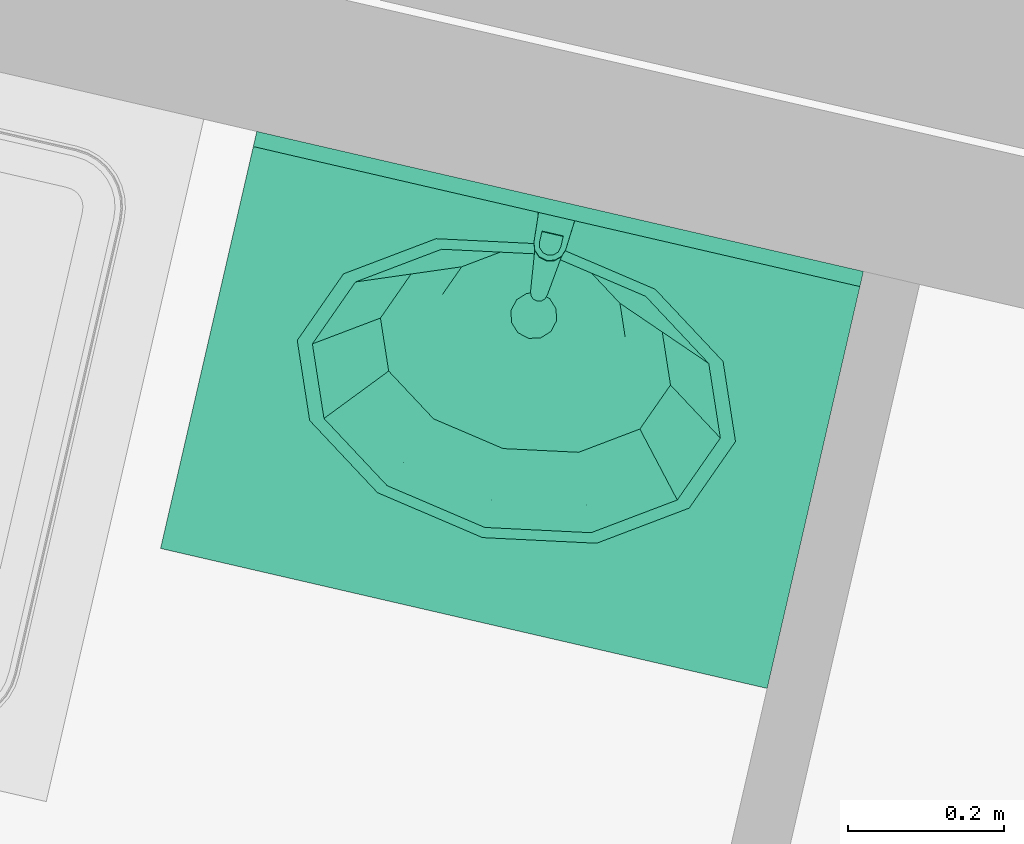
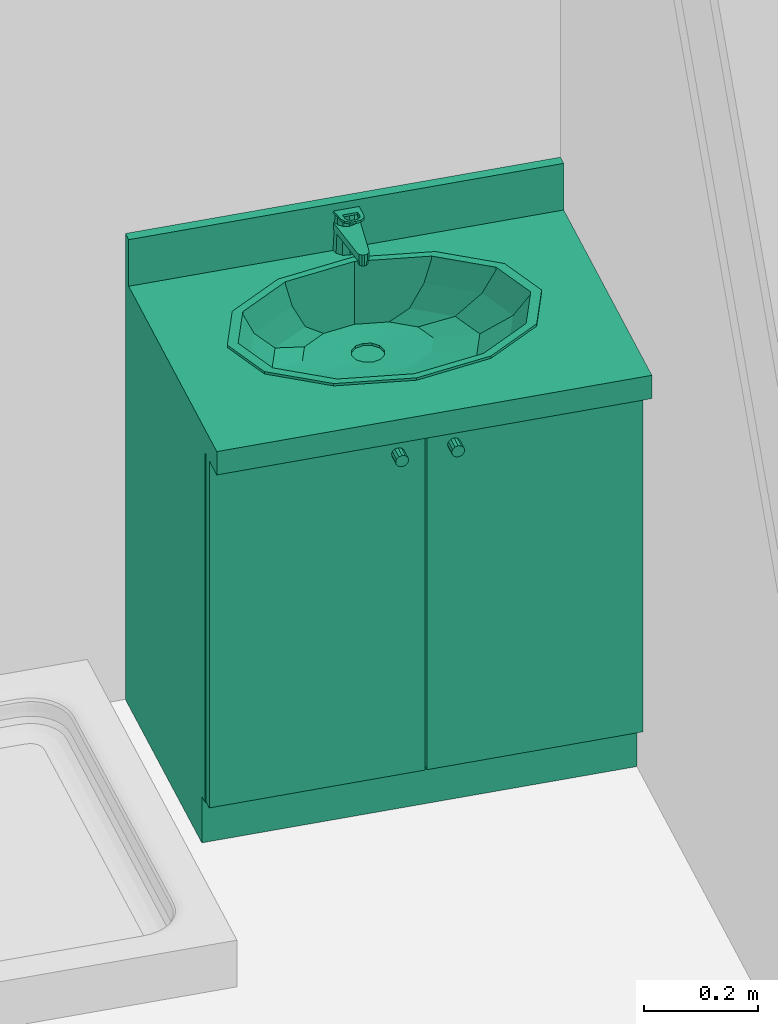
# One storey, part 102 of 119: 1 flow terminal.
"""IFC2X3 building model written with IfcOpenShell, lengths in metres."""

from ifc_helpers import new_model, entity, si_unit, converted_unit, derived_unit, money_unit, direction, frame, origin_with_axes, place, context, subcontext, project, spatial, open_shell, faceted_brep, surface_model, source, transform, mapped, type_object, element, save


model = new_model("IFC2X3")

# Units and contexts
model_context = context("Model", 3, precision=1e-05, world=origin_with_axes(), true_north=direction((0.0, 1.0)))
body_context = subcontext(model_context, "Body", "Model", "MODEL_VIEW")
ifc_project = project(units=[si_unit("LENGTHUNIT", "METRE"), si_unit("AREAUNIT", "SQUARE_METRE"), si_unit("VOLUMEUNIT", "CUBIC_METRE"), converted_unit("PLANEANGLEUNIT", "DEGREE", entity("IfcPlaneAngleMeasure", 0.0174532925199), si_unit("PLANEANGLEUNIT", "RADIAN"), dimensions=[0, 0, 0, 0, 0, 0, 0]), si_unit("SOLIDANGLEUNIT", "STERADIAN"), money_unit("EUR"), converted_unit("TIMEUNIT", "Year", entity("IfcTimeMeasure", 31556926.0), si_unit("TIMEUNIT", "SECOND"), dimensions=[0, 0, 1, 0, 0, 0, 0]), si_unit("MASSUNIT", "GRAM", prefix="KILO"), si_unit("THERMODYNAMICTEMPERATUREUNIT", "DEGREE_CELSIUS"), si_unit("LUMINOUSINTENSITYUNIT", "LUMEN"), si_unit("ENERGYUNIT", "JOULE", prefix="MEGA"), derived_unit("THERMALCONDUCTANCEUNIT", [(si_unit("POWERUNIT", "WATT"), 1), (si_unit("LENGTHUNIT", "METRE"), -1), (si_unit("THERMODYNAMICTEMPERATUREUNIT", "KELVIN"), -1)]), derived_unit("SPECIFICHEATCAPACITYUNIT", [(si_unit("ENERGYUNIT", "JOULE"), 1), (si_unit("MASSUNIT", "GRAM", prefix="KILO"), -1), (si_unit("THERMODYNAMICTEMPERATUREUNIT", "KELVIN"), -1)]), derived_unit("MASSDENSITYUNIT", [(si_unit("MASSUNIT", "GRAM", prefix="KILO"), 1), (si_unit("VOLUMEUNIT", "CUBIC_METRE"), -1)])], contexts=[model_context])

# Site, building, storey
site_placement = place(None, origin_with_axes())
site = spatial("IfcSite", under=ifc_project, at=site_placement, Name="Site", CompositionType="ELEMENT")
building_placement = place(site_placement, origin_with_axes())
building = spatial("IfcBuilding", under=site, at=building_placement, Name="Bâtiment", CompositionType="ELEMENT")
storey_placement = place(building_placement, origin_with_axes())
storey = spatial("IfcBuildingStorey", under=building, at=storey_placement, Name="Rez-de-chaussée", CompositionType="ELEMENT", Elevation=0.0)

# Flow terminal
sanitary_terminal_type = type_object("IfcSanitaryTerminalType", Name="Lavabo sur meuble 23", PredefinedType="NOTDEFINED")
shared_shape = source(origin_with_axes(), body_context, "Body", "SurfaceModel", [
    faceted_brep([(0.0, 0.09, 0.0), (0.0, 0.09, 0.1), (-0.8, 0.09, 0.1), (-0.8, 0.09, 0.0), (0.0, 0.55, 0.0), (0.0, 0.55, 0.1), (-0.8, 0.55, 0.1), (-0.8, 0.55, 0.0)], [[[0, 1, 2, 3]], [[4, 5, 1, 0]], [[1, 5, 6, 2]], [[3, 2, 6, 7]], [[0, 3, 7, 4]], [[7, 6, 5, 4]]]),
    faceted_brep([(0.0, 0.07, 0.1), (0.0, 0.07, 0.12), (-0.02, 0.07, 0.12), (-0.02, 0.07, 0.1), (0.0, 0.55, 0.1), (0.0, 0.55, 0.12), (-0.02, 0.55, 0.12), (-0.78, 0.55, 0.12), (-0.8, 0.55, 0.12), (-0.8, 0.07, 0.12), (-0.78, 0.07, 0.12), (-0.78, 0.07, 0.1), (-0.8, 0.07, 0.1), (-0.8, 0.55, 0.1), (-0.78, 0.55, 0.1), (-0.02, 0.55, 0.1)], [[[0, 1, 2, 3]], [[4, 5, 1, 0]], [[1, 5, 6, 7, 8, 9, 10, 2]], [[3, 2, 10, 11]], [[0, 3, 11, 12, 13, 14, 15, 4]], [[15, 6, 5, 4]], [[14, 7, 6, 15]], [[13, 8, 7, 14]], [[12, 9, 8, 13]], [[11, 10, 9, 12]]]),
    faceted_brep([(0.0, 0.07, 0.12), (0.0, 0.07, 0.85), (-0.02, 0.07, 0.85), (-0.02, 0.07, 0.12), (0.0, 0.55, 0.12), (0.0, 0.55, 0.85), (-0.8, 0.55, 0.85), (-0.8, 0.07, 0.85), (-0.78, 0.07, 0.85), (-0.78, 0.53, 0.85), (-0.02, 0.53, 0.85), (-0.02, 0.53, 0.12), (-0.78, 0.53, 0.12), (-0.78, 0.07, 0.12), (-0.8, 0.07, 0.12), (-0.8, 0.55, 0.12)], [[[0, 1, 2, 3]], [[4, 5, 1, 0]], [[1, 5, 6, 7, 8, 9, 10, 2]], [[3, 2, 10, 11]], [[0, 3, 11, 12, 13, 14, 15, 4]], [[15, 6, 5, 4]], [[14, 7, 6, 15]], [[13, 8, 7, 14]], [[12, 9, 8, 13]], [[11, 10, 9, 12]]]),
    faceted_brep([(-0.78, 0.07, 0.323333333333), (-0.78, 0.07, 0.343333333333), (-0.78, 0.53, 0.343333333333), (-0.78, 0.53, 0.323333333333), (-0.02, 0.07, 0.323333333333), (-0.02, 0.07, 0.343333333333), (-0.02, 0.53, 0.343333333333), (-0.02, 0.53, 0.323333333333)], [[[0, 1, 2, 3]], [[4, 5, 1, 0]], [[1, 5, 6, 2]], [[3, 2, 6, 7]], [[0, 3, 7, 4]], [[7, 6, 5, 4]]]),
    faceted_brep([(-0.78, 0.07, 0.566666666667), (-0.78, 0.07, 0.586666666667), (-0.78, 0.53, 0.586666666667), (-0.78, 0.53, 0.566666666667), (-0.02, 0.07, 0.566666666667), (-0.02, 0.07, 0.586666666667), (-0.02, 0.53, 0.586666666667), (-0.02, 0.53, 0.566666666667)], [[[0, 1, 2, 3]], [[4, 5, 1, 0]], [[1, 5, 6, 2]], [[3, 2, 6, 7]], [[0, 3, 7, 4]], [[7, 6, 5, 4]]]),
    faceted_brep([(0.0, 0.55, 0.85), (0.0, 0.0, 0.85), (-0.8, 0.0, 0.85), (-0.8, 0.55, 0.85), (-0.535, 0.144115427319, 0.85), (-0.4, 0.12, 0.85), (-0.265, 0.144115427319, 0.85), (-0.166173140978, 0.21, 0.85), (-0.13, 0.3, 0.85), (-0.166173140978, 0.39, 0.85), (-0.265, 0.455884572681, 0.85), (-0.4, 0.48, 0.85), (-0.535, 0.455884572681, 0.85), (-0.633826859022, 0.39, 0.85), (-0.67, 0.3, 0.85), (-0.633826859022, 0.21, 0.85), (0.0, 0.55, 0.9), (0.0, 0.0, 0.9), (-0.8, 0.0, 0.9), (-0.8, 0.55, 0.9), (-0.4, 0.12, 0.9), (-0.535, 0.144115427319, 0.9), (-0.265, 0.144115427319, 0.9), (-0.166173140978, 0.21, 0.9), (-0.13, 0.3, 0.9), (-0.166173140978, 0.39, 0.9), (-0.265, 0.455884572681, 0.9), (-0.4, 0.48, 0.9), (-0.535, 0.455884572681, 0.9), (-0.633826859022, 0.39, 0.9), (-0.67, 0.3, 0.9), (-0.633826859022, 0.21, 0.9)], [[[0, 1, 2, 3], [4, 5, 6, 7, 8, 9, 10, 11, 12, 13, 14, 15]], [[1, 0, 16, 17]], [[2, 1, 17, 18]], [[3, 2, 18, 19]], [[0, 3, 19, 16]], [[20, 5, 4, 21]], [[22, 6, 5, 20]], [[23, 7, 6, 22]], [[24, 8, 7, 23]], [[25, 9, 8, 24]], [[26, 10, 9, 25]], [[27, 11, 10, 26]], [[28, 12, 11, 27]], [[29, 13, 12, 28]], [[30, 14, 13, 29]], [[31, 15, 14, 30]], [[21, 4, 15, 31]], [[18, 17, 16, 19], [28, 27, 26, 25, 24, 23, 22, 20, 21, 31, 30, 29]]]),
    faceted_brep([(0.0, 0.53, 0.9), (0.0, 0.53, 1.0), (-0.8, 0.53, 1.0), (-0.8, 0.53, 0.9), (0.0, 0.55, 0.9), (0.0, 0.55, 1.0), (-0.8, 0.55, 1.0), (-0.8, 0.55, 0.9)], [[[0, 1, 2, 3]], [[4, 5, 1, 0]], [[1, 5, 6, 2]], [[3, 2, 6, 7]], [[0, 3, 7, 4]], [[7, 6, 5, 4]]]),
    faceted_brep([(-0.689, 0.3, 0.905), (-0.650281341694, 0.396691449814, 0.905), (-0.650281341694, 0.396691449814, 0.9), (-0.689, 0.3, 0.9), (-0.650281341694, 0.203308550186, 0.905), (-0.5445, 0.132525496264, 0.905), (-0.4, 0.106617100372, 0.905), (-0.2555, 0.132525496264, 0.905), (-0.149718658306, 0.203308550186, 0.905), (-0.111, 0.3, 0.905), (-0.149718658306, 0.396691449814, 0.905), (-0.2555, 0.467474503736, 0.905), (-0.4, 0.493382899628, 0.905), (-0.5445, 0.467474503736, 0.905), (-0.669, 0.3, 0.905), (-0.632960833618, 0.39, 0.905), (-0.5345, 0.455884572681, 0.905), (-0.4, 0.48, 0.905), (-0.2655, 0.455884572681, 0.905), (-0.167039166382, 0.39, 0.905), (-0.131, 0.3, 0.905), (-0.167039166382, 0.21, 0.905), (-0.2655, 0.144115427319, 0.905), (-0.4, 0.12, 0.905), (-0.5345, 0.144115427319, 0.905), (-0.632960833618, 0.21, 0.905), (-0.5445, 0.467474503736, 0.9), (-0.4, 0.493382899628, 0.9), (-0.2555, 0.467474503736, 0.9), (-0.149718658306, 0.396691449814, 0.9), (-0.111, 0.3, 0.9), (-0.149718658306, 0.203308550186, 0.9), (-0.2555, 0.132525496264, 0.9), (-0.4, 0.106617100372, 0.9), (-0.5445, 0.132525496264, 0.9), (-0.650281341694, 0.203308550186, 0.9), (-0.669, 0.3, 0.9), (-0.632960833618, 0.21, 0.9), (-0.5345, 0.144115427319, 0.9), (-0.4, 0.12, 0.9), (-0.2655, 0.144115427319, 0.9), (-0.167039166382, 0.21, 0.9), (-0.131, 0.3, 0.9), (-0.167039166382, 0.39, 0.9), (-0.2655, 0.455884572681, 0.9), (-0.4, 0.48, 0.9), (-0.5345, 0.455884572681, 0.9), (-0.632960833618, 0.39, 0.9)], [[[0, 1, 2, 3]], [[0, 4, 5, 6, 7, 8, 9, 10, 11, 12, 13, 1], [14, 15, 16, 17, 18, 19, 20, 21, 22, 23, 24, 25]], [[1, 13, 26, 2]], [[3, 2, 26, 27, 28, 29, 30, 31, 32, 33, 34, 35], [36, 37, 38, 39, 40, 41, 42, 43, 44, 45, 46, 47]], [[4, 0, 3, 35]], [[5, 4, 35, 34]], [[6, 5, 34, 33]], [[7, 6, 33, 32]], [[8, 7, 32, 31]], [[9, 8, 31, 30]], [[10, 9, 30, 29]], [[11, 10, 29, 28]], [[12, 11, 28, 27]], [[13, 12, 27, 26]], [[15, 14, 36, 47]], [[16, 15, 47, 46]], [[17, 16, 46, 45]], [[18, 17, 45, 44]], [[19, 18, 44, 43]], [[20, 19, 43, 42]], [[21, 20, 42, 41]], [[22, 21, 41, 40]], [[23, 22, 40, 39]], [[24, 23, 39, 38]], [[25, 24, 38, 37]], [[14, 25, 37, 36]]]),
    surface_model("IfcShellBasedSurfaceModel", [(-0.4, 0.48, 0.9), (-0.5345, 0.455884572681, 0.9), (-0.52105, 0.458296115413, 0.848), (-0.4, 0.48, 0.848), (-0.632960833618, 0.39, 0.9), (-0.609664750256, 0.399, 0.848), (-0.2655, 0.455884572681, 0.9), (-0.27895, 0.458296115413, 0.848), (-0.669, 0.3, 0.9), (-0.6421, 0.318, 0.848), (-0.167039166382, 0.39, 0.9), (-0.190335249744, 0.399, 0.848), (-0.632960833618, 0.21, 0.9), (-0.609664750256, 0.237, 0.848), (-0.131, 0.3, 0.9), (-0.1579, 0.318, 0.848), (-0.5345, 0.144115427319, 0.9), (-0.52105, 0.177703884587, 0.848), (-0.167039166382, 0.21, 0.9), (-0.190335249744, 0.237, 0.848), (-0.4, 0.12, 0.9), (-0.4, 0.156, 0.848), (-0.2655, 0.144115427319, 0.9), (-0.27895, 0.177703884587, 0.848)], [open_shell([[[0, 1, 2, 3]], [[1, 4, 5, 2]], [[6, 0, 3, 7]], [[4, 8, 9, 5]], [[10, 6, 7, 11]], [[8, 12, 13, 9]], [[14, 10, 11, 15]], [[12, 16, 17, 13]], [[18, 14, 15, 19]], [[16, 20, 21, 17]], [[22, 18, 19, 23]], [[20, 22, 23, 21]]])]),
    surface_model("IfcShellBasedSurfaceModel", [(-0.4, 0.48, 0.848), (-0.52105, 0.458296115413, 0.848), (-0.4956295, 0.462853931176, 0.796), (-0.4, 0.48, 0.796), (-0.609664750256, 0.399, 0.848), (-0.565635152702, 0.41601, 0.796), (-0.27895, 0.458296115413, 0.848), (-0.3043705, 0.462853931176, 0.796), (-0.6421, 0.318, 0.848), (-0.591259, 0.35202, 0.796), (-0.190335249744, 0.399, 0.848), (-0.234364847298, 0.41601, 0.796), (-0.609664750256, 0.237, 0.848), (-0.565635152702, 0.28803, 0.796), (-0.1579, 0.318, 0.848), (-0.208741, 0.35202, 0.796), (-0.52105, 0.177703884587, 0.848), (-0.4956295, 0.241186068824, 0.796), (-0.190335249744, 0.237, 0.848), (-0.234364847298, 0.28803, 0.796), (-0.4, 0.156, 0.848), (-0.4, 0.22404, 0.796), (-0.27895, 0.177703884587, 0.848), (-0.3043705, 0.241186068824, 0.796)], [open_shell([[[0, 1, 2, 3]], [[1, 4, 5, 2]], [[6, 0, 3, 7]], [[4, 8, 9, 5]], [[10, 6, 7, 11]], [[8, 12, 13, 9]], [[14, 10, 11, 15]], [[12, 16, 17, 13]], [[18, 14, 15, 19]], [[16, 20, 21, 17]], [[22, 18, 19, 23]], [[20, 22, 23, 21]]])]),
    surface_model("IfcShellBasedSurfaceModel", [(-0.4, 0.48, 0.796), (-0.4956295, 0.462853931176, 0.796), (-0.460246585, 0.469197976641, 0.77), (-0.4, 0.48, 0.77), (-0.565635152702, 0.41601, 0.796), (-0.504350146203, 0.4396863, 0.77), (-0.3043705, 0.462853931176, 0.796), (-0.339753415, 0.469197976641, 0.77), (-0.591259, 0.35202, 0.796), (-0.52049317, 0.3993726, 0.77), (-0.234364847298, 0.41601, 0.796), (-0.295649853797, 0.4396863, 0.77), (-0.565635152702, 0.28803, 0.796), (-0.504350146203, 0.3590589, 0.77), (-0.208741, 0.35202, 0.796), (-0.27950683, 0.3993726, 0.77), (-0.4956295, 0.241186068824, 0.796), (-0.460246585, 0.329547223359, 0.77), (-0.234364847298, 0.28803, 0.796), (-0.295649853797, 0.3590589, 0.77), (-0.4, 0.22404, 0.796), (-0.4, 0.3187452, 0.77), (-0.3043705, 0.241186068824, 0.796), (-0.339753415, 0.329547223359, 0.77)], [open_shell([[[0, 1, 2, 3]], [[1, 4, 5, 2]], [[6, 0, 3, 7]], [[4, 8, 9, 5]], [[10, 6, 7, 11]], [[8, 12, 13, 9]], [[14, 10, 11, 15]], [[12, 16, 17, 13]], [[18, 14, 15, 19]], [[16, 20, 21, 17]], [[22, 18, 19, 23]], [[20, 22, 23, 21]]])]),
    surface_model("IfcShellBasedSurfaceModel", [(-0.4, 0.48, 0.77), (-0.460246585, 0.469197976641, 0.77), (-0.415, 0.425353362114, 0.763), (-0.425980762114, 0.4143726, 0.763), (-0.4, 0.4293726, 0.763), (-0.504350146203, 0.4396863, 0.77), (-0.339753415, 0.469197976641, 0.77), (-0.43, 0.3993726, 0.763), (-0.385, 0.425353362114, 0.763), (-0.52049317, 0.3993726, 0.77), (-0.295649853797, 0.4396863, 0.77), (-0.425980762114, 0.3843726, 0.763), (-0.374019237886, 0.4143726, 0.763), (-0.504350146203, 0.3590589, 0.77), (-0.27950683, 0.3993726, 0.77), (-0.415, 0.373391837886, 0.763), (-0.37, 0.3993726, 0.763), (-0.460246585, 0.329547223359, 0.77), (-0.295649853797, 0.3590589, 0.77), (-0.4, 0.3693726, 0.763), (-0.374019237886, 0.3843726, 0.763), (-0.4, 0.3187452, 0.77), (-0.339753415, 0.329547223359, 0.77), (-0.385, 0.373391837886, 0.763)], [open_shell([[[0, 1, 2]], [[1, 3, 2]], [[0, 2, 4]], [[1, 5, 3]], [[6, 0, 4]], [[5, 7, 3]], [[6, 4, 8]], [[5, 9, 7]], [[10, 6, 8]], [[9, 11, 7]], [[10, 8, 12]], [[9, 13, 11]], [[14, 10, 12]], [[13, 15, 11]], [[14, 12, 16]], [[13, 17, 15]], [[18, 14, 16]], [[17, 19, 15]], [[18, 16, 20]], [[17, 21, 19]], [[22, 18, 20]], [[21, 23, 19]], [[22, 20, 23]], [[21, 22, 23]]])]),
    surface_model("IfcShellBasedSurfaceModel", [(-0.43, 0.3993726, 0.763), (-0.425980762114, 0.4143726, 0.763), (-0.425980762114, 0.4143726, 0.758), (-0.43, 0.3993726, 0.758), (-0.415, 0.425353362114, 0.763), (-0.415, 0.425353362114, 0.758), (-0.4, 0.4293726, 0.758), (-0.385, 0.425353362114, 0.758), (-0.374019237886, 0.4143726, 0.758), (-0.37, 0.3993726, 0.758), (-0.374019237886, 0.3843726, 0.758), (-0.385, 0.373391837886, 0.758), (-0.4, 0.3693726, 0.758), (-0.415, 0.373391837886, 0.758), (-0.425980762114, 0.3843726, 0.758), (-0.425980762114, 0.3843726, 0.763), (-0.4, 0.4293726, 0.763), (-0.385, 0.425353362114, 0.763), (-0.374019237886, 0.4143726, 0.763), (-0.37, 0.3993726, 0.763), (-0.374019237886, 0.3843726, 0.763), (-0.385, 0.373391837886, 0.763), (-0.4, 0.3693726, 0.763), (-0.415, 0.373391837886, 0.763)], [open_shell([[[0, 1, 2, 3]], [[1, 4, 5, 2]], [[3, 2, 5, 6, 7, 8, 9, 10, 11, 12, 13, 14]], [[15, 0, 3, 14]], [[4, 16, 6, 5]], [[16, 17, 7, 6]], [[17, 18, 8, 7]], [[18, 19, 9, 8]], [[19, 20, 10, 9]], [[20, 21, 11, 10]], [[21, 22, 12, 11]], [[22, 23, 13, 12]], [[23, 15, 14, 13]]])]),
    faceted_brep([(-0.4125, 0.554150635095, 0.9), (-0.410587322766, 0.550837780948, 0.976507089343), (-0.4, 0.553701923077, 0.975961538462), (-0.4, 0.5575, 0.9), (-0.421650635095, 0.545, 0.9), (-0.418273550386, 0.543050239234, 0.977990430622), (-0.421, 0.5325, 0.98), (-0.418100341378, 0.522049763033, 0.981990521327), (-0.410414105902, 0.514462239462, 0.983435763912), (-0.4, 0.511698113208, 0.983962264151), (-0.389585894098, 0.514462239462, 0.983435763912), (-0.381899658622, 0.522049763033, 0.981990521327), (-0.379, 0.5325, 0.98), (-0.381726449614, 0.543050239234, 0.977990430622), (-0.389412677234, 0.550837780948, 0.976507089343), (-0.3875, 0.554150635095, 0.9), (-0.378349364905, 0.545, 0.9), (-0.375, 0.5325, 0.9), (-0.378349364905, 0.52, 0.9), (-0.3875, 0.510849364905, 0.9), (-0.4, 0.5075, 0.9), (-0.4125, 0.510849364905, 0.9), (-0.421650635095, 0.52, 0.9), (-0.425, 0.5325, 0.9)], [[[0, 1, 2, 3]], [[4, 5, 1, 0]], [[1, 5, 6, 7, 8, 9, 10, 11, 12, 13, 14, 2]], [[3, 2, 14, 15]], [[0, 3, 15, 16, 17, 18, 19, 20, 21, 22, 23, 4]], [[23, 6, 5, 4]], [[22, 7, 6, 23]], [[21, 8, 7, 22]], [[20, 9, 8, 21]], [[19, 10, 9, 20]], [[18, 11, 10, 19]], [[17, 12, 11, 18]], [[16, 13, 12, 17]], [[15, 14, 13, 16]]]),
    faceted_brep([(-0.409, 0.4295, 0.935), (-0.409, 0.4295, 0.945), (-0.407794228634, 0.434, 0.945), (-0.407794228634, 0.434, 0.935), (-0.407794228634, 0.425, 0.935), (-0.407794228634, 0.425, 0.945), (-0.4045, 0.421705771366, 0.945), (-0.4, 0.4205, 0.945), (-0.3955, 0.421705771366, 0.945), (-0.392205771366, 0.425, 0.945), (-0.391, 0.4295, 0.945), (-0.392205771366, 0.434, 0.945), (-0.3955, 0.437294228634, 0.945), (-0.4, 0.4385, 0.945), (-0.4045, 0.437294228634, 0.945), (-0.4045, 0.437294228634, 0.935), (-0.4, 0.4385, 0.935), (-0.3955, 0.437294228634, 0.935), (-0.392205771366, 0.434, 0.935), (-0.391, 0.4295, 0.935), (-0.392205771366, 0.425, 0.935), (-0.3955, 0.421705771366, 0.935), (-0.4, 0.4205, 0.935), (-0.4045, 0.421705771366, 0.935)], [[[0, 1, 2, 3]], [[4, 5, 1, 0]], [[1, 5, 6, 7, 8, 9, 10, 11, 12, 13, 14, 2]], [[3, 2, 14, 15]], [[0, 3, 15, 16, 17, 18, 19, 20, 21, 22, 23, 4]], [[23, 6, 5, 4]], [[22, 7, 6, 23]], [[21, 8, 7, 22]], [[20, 9, 8, 21]], [[19, 10, 9, 20]], [[18, 11, 10, 19]], [[17, 12, 11, 18]], [[16, 13, 12, 17]], [[15, 14, 13, 16]]]),
    faceted_brep([(-0.387128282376, 0.552756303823, 0.96), (-0.40000000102, 0.556499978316, 0.96), (-0.412871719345, 0.552756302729, 0.96), (-0.421727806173, 0.542693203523, 0.96), (-0.423805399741, 0.529450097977, 0.96), (-0.410912, 0.4281117, 0.96), (-0.409028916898, 0.423216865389, 0.96), (-0.405093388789, 0.419750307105, 0.96), (-0.400000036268, 0.41850003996, 0.96), (-0.394906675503, 0.419750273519, 0.96), (-0.390971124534, 0.423216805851, 0.96), (-0.389088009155, 0.428111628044, 0.96), (-0.3761946, 0.5294501, 0.96), (-0.378272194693, 0.54269320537, 0.96), (-0.411, 0.551552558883, 0.96), (-0.4, 0.5545, 0.96), (-0.389, 0.551552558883, 0.96), (-0.380947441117, 0.5435, 0.96), (-0.378, 0.5325, 0.96), (-0.380947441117, 0.5215, 0.96), (-0.389, 0.513447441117, 0.96), (-0.4, 0.5105, 0.96), (-0.411, 0.513447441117, 0.96), (-0.419052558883, 0.5215, 0.96), (-0.422, 0.5325, 0.96), (-0.419052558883, 0.5435, 0.96), (-0.387128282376, 0.552756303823, 0.945), (-0.40000000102, 0.556499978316, 0.945), (-0.412871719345, 0.552756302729, 0.945), (-0.421727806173, 0.542693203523, 0.945), (-0.423805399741, 0.529450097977, 0.945), (-0.410912, 0.4281117, 0.945), (-0.409028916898, 0.423216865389, 0.945), (-0.405093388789, 0.419750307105, 0.945), (-0.400000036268, 0.41850003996, 0.945), (-0.394906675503, 0.419750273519, 0.945), (-0.390971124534, 0.423216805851, 0.945), (-0.389088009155, 0.428111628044, 0.945), (-0.3761946, 0.5294501, 0.945), (-0.378272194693, 0.54269320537, 0.945), (-0.4, 0.55525, 0.945), (-0.411375, 0.552202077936, 0.945), (-0.388625, 0.552202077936, 0.945), (-0.380297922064, 0.543875, 0.945), (-0.37725, 0.5325, 0.945), (-0.380297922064, 0.521125, 0.945), (-0.388625, 0.512797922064, 0.945), (-0.4, 0.50975, 0.945), (-0.411375, 0.512797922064, 0.945), (-0.419702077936, 0.521125, 0.945), (-0.42275, 0.5325, 0.945), (-0.419702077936, 0.543875, 0.945)], [[[0, 1, 2, 3, 4, 5, 6, 7, 8, 9, 10, 11, 12, 13], [14, 15, 16, 17, 18, 19, 20, 21, 22, 23, 24, 25]], [[26, 27, 1, 0]], [[27, 28, 2, 1]], [[28, 29, 3, 2]], [[29, 30, 4, 3]], [[30, 31, 5, 4]], [[31, 32, 6, 5]], [[32, 33, 7, 6]], [[33, 34, 8, 7]], [[34, 35, 9, 8]], [[35, 36, 10, 9]], [[36, 37, 11, 10]], [[37, 38, 12, 11]], [[38, 39, 13, 12]], [[39, 26, 0, 13]], [[40, 15, 14, 41]], [[42, 16, 15, 40]], [[16, 42, 43, 17]], [[17, 43, 44, 18]], [[18, 44, 45, 19]], [[19, 45, 46, 20]], [[20, 46, 47, 21]], [[48, 22, 21, 47]], [[49, 23, 22, 48]], [[50, 24, 23, 49]], [[51, 25, 24, 50]], [[41, 14, 25, 51]], [[34, 33, 32, 31, 30, 29, 28, 27, 26, 39, 38, 37, 36, 35], [48, 47, 46, 45, 44, 43, 42, 40, 41, 51, 50, 49]]]),
    faceted_brep([(-0.423893, 0.53080743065, 0.980322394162), (-0.423893, 0.531555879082, 0.984251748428), (-0.421296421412, 0.544023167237, 0.981877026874), (-0.421296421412, 0.543274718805, 0.977947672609), (-0.420945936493, 0.490663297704, 0.987968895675), (-0.420945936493, 0.491411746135, 0.991898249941), (-0.417663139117, 0.48173408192, 0.993741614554), (-0.410061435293, 0.47478470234, 0.995065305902), (-0.399999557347, 0.472262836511, 0.995545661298), (-0.389937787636, 0.474785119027, 0.995065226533), (-0.382336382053, 0.481734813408, 0.993741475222), (-0.379054, 0.491412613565, 0.991898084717), (-0.376106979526, 0.531556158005, 0.984251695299), (-0.378703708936, 0.544023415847, 0.98187697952), (-0.38752831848, 0.553339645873, 0.980102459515), (-0.400000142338, 0.556780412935, 0.979447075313), (-0.41247192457, 0.553339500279, 0.980102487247), (-0.414, 0.507707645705, 0.988794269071), (-0.386, 0.507707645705, 0.988794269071), (-0.386, 0.492892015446, 0.991616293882), (-0.387875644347, 0.486015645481, 0.992926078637), (-0.393, 0.480981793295, 0.993884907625), (-0.4, 0.479139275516, 0.994235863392), (-0.407, 0.480981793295, 0.993884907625), (-0.412124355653, 0.486015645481, 0.992926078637), (-0.414, 0.492892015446, 0.991616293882), (-0.41247192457, 0.552591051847, 0.976173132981), (-0.400000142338, 0.556031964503, 0.975517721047), (-0.38752831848, 0.552591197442, 0.976173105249), (-0.378703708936, 0.543274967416, 0.977947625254), (-0.376106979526, 0.530807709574, 0.980322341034), (-0.379054, 0.490664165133, 0.987968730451), (-0.382336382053, 0.480986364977, 0.989812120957), (-0.389937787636, 0.474036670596, 0.991135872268), (-0.399999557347, 0.47151438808, 0.991616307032), (-0.410061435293, 0.474036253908, 0.991135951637), (-0.417663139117, 0.480985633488, 0.989812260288), (-0.414, 0.506959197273, 0.984864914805), (-0.414, 0.492143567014, 0.987686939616), (-0.412124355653, 0.485267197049, 0.988996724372), (-0.407, 0.480233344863, 0.989955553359), (-0.4, 0.478390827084, 0.990306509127), (-0.393, 0.480233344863, 0.989955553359), (-0.387875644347, 0.485267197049, 0.988996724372), (-0.386, 0.492143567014, 0.987686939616), (-0.386, 0.506959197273, 0.984864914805)], [[[0, 1, 2, 3]], [[4, 5, 1, 0]], [[1, 5, 6, 7, 8, 9, 10, 11, 12, 13, 14, 15, 16, 2], [17, 18, 19, 20, 21, 22, 23, 24, 25]], [[3, 2, 16, 26]], [[0, 3, 26, 27, 28, 29, 30, 31, 32, 33, 34, 35, 36, 4], [37, 38, 39, 40, 41, 42, 43, 44, 45]], [[36, 6, 5, 4]], [[35, 7, 6, 36]], [[34, 8, 7, 35]], [[33, 9, 8, 34]], [[32, 10, 9, 33]], [[31, 11, 10, 32]], [[30, 12, 11, 31]], [[29, 13, 12, 30]], [[28, 14, 13, 29]], [[27, 15, 14, 28]], [[26, 16, 15, 27]], [[45, 18, 17, 37]], [[44, 19, 18, 45]], [[43, 20, 19, 44]], [[42, 21, 20, 43]], [[41, 22, 21, 42]], [[40, 23, 22, 41]], [[39, 24, 23, 40]], [[38, 25, 24, 39]], [[37, 17, 25, 38]]]),
    faceted_brep([(-0.0015, 0.07, 0.1015), (-0.0015, 0.05, 0.1015), (-0.3985, 0.05, 0.1015), (-0.3985, 0.07, 0.1015), (-0.0015, 0.07, 0.8485), (-0.0015, 0.05, 0.8485), (-0.3985, 0.05, 0.8485), (-0.3985, 0.07, 0.8485)], [[[0, 1, 2, 3]], [[4, 5, 1, 0]], [[1, 5, 6, 2]], [[3, 2, 6, 7]], [[0, 3, 7, 4]], [[7, 6, 5, 4]]]),
    faceted_brep([(-0.358892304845, 0.05, 0.7855), (-0.3605, 0.05, 0.7915), (-0.358892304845, 0.05, 0.7975), (-0.3545, 0.05, 0.801892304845), (-0.3485, 0.05, 0.8035), (-0.3425, 0.05, 0.801892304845), (-0.338107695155, 0.05, 0.7975), (-0.3365, 0.05, 0.7915), (-0.338107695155, 0.05, 0.7855), (-0.3425, 0.05, 0.781107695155), (-0.3485, 0.05, 0.7795), (-0.3545, 0.05, 0.781107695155), (-0.358892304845, 0.025, 0.7855), (-0.3605, 0.025, 0.7915), (-0.358892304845, 0.025, 0.7975), (-0.3545, 0.025, 0.801892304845), (-0.3485, 0.025, 0.8035), (-0.3425, 0.025, 0.801892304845), (-0.338107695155, 0.025, 0.7975), (-0.3365, 0.025, 0.7915), (-0.338107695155, 0.025, 0.7855), (-0.3425, 0.025, 0.781107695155), (-0.3485, 0.025, 0.7795), (-0.3545, 0.025, 0.781107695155)], [[[0, 1, 2, 3, 4, 5, 6, 7, 8, 9, 10, 11]], [[0, 12, 13, 1]], [[1, 13, 14, 2]], [[2, 14, 15, 3]], [[3, 15, 16, 4]], [[4, 16, 17, 5]], [[5, 17, 18, 6]], [[6, 18, 19, 7]], [[7, 19, 20, 8]], [[8, 20, 21, 9]], [[9, 21, 22, 10]], [[10, 22, 23, 11]], [[11, 23, 12, 0]], [[12, 23, 22, 21, 20, 19, 18, 17, 16, 15, 14, 13]]]),
    faceted_brep([(-0.7985, 0.07, 0.1015), (-0.4015, 0.07, 0.1015), (-0.4015, 0.05, 0.1015), (-0.7985, 0.05, 0.1015), (-0.7985, 0.07, 0.8485), (-0.4015, 0.07, 0.8485), (-0.4015, 0.05, 0.8485), (-0.7985, 0.05, 0.8485)], [[[0, 1, 2, 3]], [[0, 4, 5, 1]], [[1, 5, 6, 2]], [[3, 2, 6, 7]], [[4, 0, 3, 7]], [[5, 4, 7, 6]]]),
    faceted_brep([(-0.441107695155, 0.05, 0.7855), (-0.4455, 0.05, 0.781107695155), (-0.4515, 0.05, 0.7795), (-0.4575, 0.05, 0.781107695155), (-0.461892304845, 0.05, 0.7855), (-0.4635, 0.05, 0.7915), (-0.461892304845, 0.05, 0.7975), (-0.4575, 0.05, 0.801892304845), (-0.4515, 0.05, 0.8035), (-0.4455, 0.05, 0.801892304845), (-0.441107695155, 0.05, 0.7975), (-0.4395, 0.05, 0.7915), (-0.441107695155, 0.025, 0.7855), (-0.4455, 0.025, 0.781107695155), (-0.4515, 0.025, 0.7795), (-0.4575, 0.025, 0.781107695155), (-0.461892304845, 0.025, 0.7855), (-0.4635, 0.025, 0.7915), (-0.461892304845, 0.025, 0.7975), (-0.4575, 0.025, 0.801892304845), (-0.4515, 0.025, 0.8035), (-0.4455, 0.025, 0.801892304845), (-0.441107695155, 0.025, 0.7975), (-0.4395, 0.025, 0.7915)], [[[0, 1, 2, 3, 4, 5, 6, 7, 8, 9, 10, 11]], [[1, 0, 12, 13]], [[2, 1, 13, 14]], [[3, 2, 14, 15]], [[4, 3, 15, 16]], [[5, 4, 16, 17]], [[6, 5, 17, 18]], [[7, 6, 18, 19]], [[8, 7, 19, 20]], [[9, 8, 20, 21]], [[10, 9, 21, 22]], [[11, 10, 22, 23]], [[0, 11, 23, 12]], [[12, 23, 22, 21, 20, 19, 18, 17, 16, 15, 14, 13]]]),
])
flow_terminal_placement = place(storey_placement, frame((-5.87266502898, 2.68834327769, 0.0), z_axis=(0.0, 0.0, 1.0), x_axis=(0.974387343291, -0.224876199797, 0.0)))
element("IfcFlowTerminal", 1, at=flow_terminal_placement, inside=storey, type_object=sanitary_terminal_type, Name="MOB-002", ObjectType="SANITARY_TERMINAL", context=body_context, shape_type="MappedRepresentation", body=[
    mapped(shared_shape, transform((0.0, 0.0, 0.0))),
])

save(model, "model.ifc")
